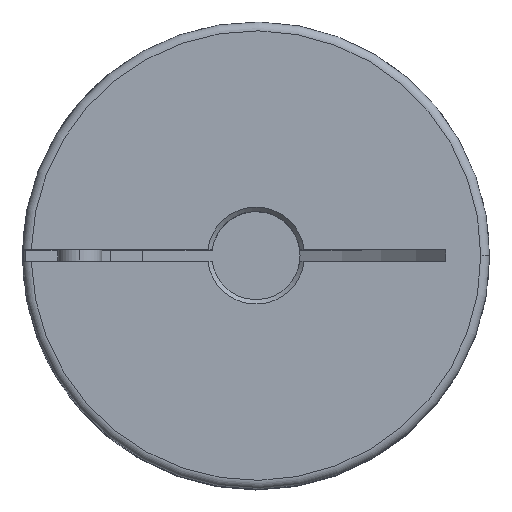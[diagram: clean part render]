
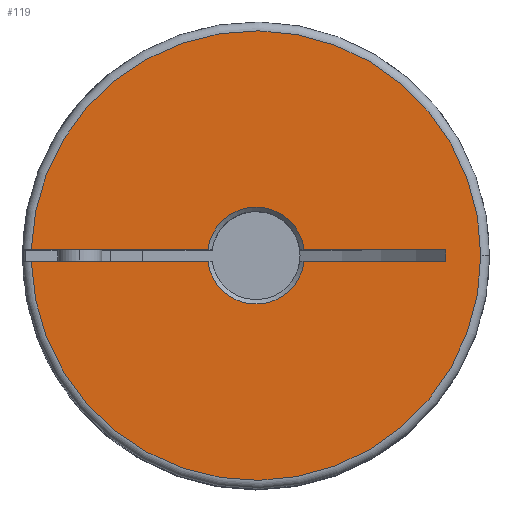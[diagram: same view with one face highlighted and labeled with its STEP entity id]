
A CAD part, top view. The second image highlights one B-rep face of the part: STEP entity #119.
In plain terms, the highlighted planar face has unit normal (0, 0, 1).
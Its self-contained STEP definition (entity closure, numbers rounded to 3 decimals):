
#119 = ADVANCED_FACE ( 'NONE', ( #1476 ), #4639, .F. ) ;
#395 = EDGE_CURVE ( 'NONE', #5055, #5344, #7812, .T. ) ;
#1061 = CARTESIAN_POINT ( 'NONE',  ( 21.5, 0.65, 26.55 ) ) ;
#1062 = DIRECTION ( 'NONE',  ( -1., 0., 0. ) ) ;
#1066 = CARTESIAN_POINT ( 'NONE',  ( 21.5, 0.65, 26.55 ) ) ;
#1067 = DIRECTION ( 'NONE',  ( -1., 0., 0. ) ) ;
#1071 = DIRECTION ( 'NONE',  ( -1., 0., 0. ) ) ;
#1072 = CARTESIAN_POINT ( 'NONE',  ( 21.5, 0.65, 26.55 ) ) ;
#1073 = CARTESIAN_POINT ( 'NONE',  ( 0., 0., 26.55 ) ) ;
#1074 = DIRECTION ( 'NONE',  ( 0., 0., -1. ) ) ;
#1075 = DIRECTION ( 'NONE',  ( 0., 1., 0. ) ) ;
#1076 = CARTESIAN_POINT ( 'NONE',  ( 21.5, -0.65, 26.55 ) ) ;
#1077 = DIRECTION ( 'NONE',  ( 0., -1., 0. ) ) ;
#1078 = CARTESIAN_POINT ( 'NONE',  ( 21.5, -0.65, 26.55 ) ) ;
#1079 = DIRECTION ( 'NONE',  ( -1., 0., 0. ) ) ;
#1476 = FACE_OUTER_BOUND ( 'NONE', #5761, .T. ) ;
#1821 = ORIENTED_EDGE ( 'NONE', *, *, #4212, .F. ) ;
#1822 = ORIENTED_EDGE ( 'NONE', *, *, #4213, .T. ) ;
#1823 = ORIENTED_EDGE ( 'NONE', *, *, #4214, .F. ) ;
#1824 = ORIENTED_EDGE ( 'NONE', *, *, #4215, .T. ) ;
#1825 = ORIENTED_EDGE ( 'NONE', *, *, #4216, .T. ) ;
#1826 = ORIENTED_EDGE ( 'NONE', *, *, #4217, .T. ) ;
#1827 = ORIENTED_EDGE ( 'NONE', *, *, #4218, .T. ) ;
#1828 = ORIENTED_EDGE ( 'NONE', *, *, #4219, .T. ) ;
#1829 = ORIENTED_EDGE ( 'NONE', *, *, #395, .T. ) ;
#3103 = CARTESIAN_POINT ( 'NONE',  ( 25.5, 0., 26.55 ) ) ;
#3165 = CARTESIAN_POINT ( 'NONE',  ( 21.5, 0.65, 26.55 ) ) ;
#3199 = CARTESIAN_POINT ( 'NONE',  ( -25.492, 0.65, 26.55 ) ) ;
#3290 = AXIS2_PLACEMENT_3D ( 'NONE', #4648, #4637, #4636 ) ;
#3484 = AXIS2_PLACEMENT_3D ( 'NONE', #3749, #3750, #3751 ) ;
#3540 = AXIS2_PLACEMENT_3D ( 'NONE', #1073, #1074, #1075 ) ;
#3541 = AXIS2_PLACEMENT_3D ( 'NONE', #6519, #6520, #6521 ) ;
#3542 = AXIS2_PLACEMENT_3D ( 'NONE', #6523, #6524, #6525 ) ;
#3749 = CARTESIAN_POINT ( 'NONE',  ( 0., 0., 26.55 ) ) ;
#3750 = DIRECTION ( 'NONE',  ( 0., 0., 1. ) ) ;
#3751 = DIRECTION ( 'NONE',  ( 1., 0., 0. ) ) ;
#4212 = EDGE_CURVE ( 'NONE', #7030, #5344, #8302, .T. ) ;
#4213 = EDGE_CURVE ( 'NONE', #7030, #7050, #8303, .T. ) ;
#4214 = EDGE_CURVE ( 'NONE', #5275, #7050, #8305, .T. ) ;
#4215 = EDGE_CURVE ( 'NONE', #5275, #7028, #8295, .T. ) ;
#4216 = EDGE_CURVE ( 'NONE', #7028, #6438, #8308, .T. ) ;
#4217 = EDGE_CURVE ( 'NONE', #6438, #6380, #8310, .T. ) ;
#4218 = EDGE_CURVE ( 'NONE', #6380, #6423, #8312, .T. ) ;
#4219 = EDGE_CURVE ( 'NONE', #6423, #5055, #8313, .T. ) ;
#4636 = DIRECTION ( 'NONE',  ( 1., 0., 0. ) ) ;
#4637 = DIRECTION ( 'NONE',  ( 0., 0., -1. ) ) ;
#4639 = PLANE ( 'NONE',  #3290 ) ;
#4648 = CARTESIAN_POINT ( 'NONE',  ( 0., 0., 26.55 ) ) ;
#5055 = VERTEX_POINT ( 'NONE', #3103 ) ;
#5275 = VERTEX_POINT ( 'NONE', #3165 ) ;
#5344 = VERTEX_POINT ( 'NONE', #3199 ) ;
#5761 = EDGE_LOOP ( 'NONE', ( #1821, #1822, #1823, #1824, #1825, #1826, #1827, #1828, #1829 ) ) ;
#5865 = CARTESIAN_POINT ( 'NONE',  ( -5.461, -0.65, 26.55 ) ) ;
#5908 = CARTESIAN_POINT ( 'NONE',  ( -25.492, -0.65, 26.55 ) ) ;
#5923 = CARTESIAN_POINT ( 'NONE',  ( 5.461, -0.65, 26.55 ) ) ;
#5929 = CARTESIAN_POINT ( 'NONE',  ( 21.5, -0.65, 26.55 ) ) ;
#5931 = CARTESIAN_POINT ( 'NONE',  ( -5.461, 0.65, 26.55 ) ) ;
#5941 = CARTESIAN_POINT ( 'NONE',  ( 5.461, 0.65, 26.55 ) ) ;
#6380 = VERTEX_POINT ( 'NONE', #5865 ) ;
#6423 = VERTEX_POINT ( 'NONE', #5908 ) ;
#6438 = VERTEX_POINT ( 'NONE', #5923 ) ;
#6519 = CARTESIAN_POINT ( 'NONE',  ( 0., 0., 26.55 ) ) ;
#6520 = DIRECTION ( 'NONE',  ( 0., 0., -1. ) ) ;
#6521 = DIRECTION ( 'NONE',  ( 0., 1., 0. ) ) ;
#6523 = CARTESIAN_POINT ( 'NONE',  ( 0., 0., 26.55 ) ) ;
#6524 = DIRECTION ( 'NONE',  ( 0., 0., 1. ) ) ;
#6525 = DIRECTION ( 'NONE',  ( 1., 0., 0. ) ) ;
#7028 = VERTEX_POINT ( 'NONE', #5929 ) ;
#7030 = VERTEX_POINT ( 'NONE', #5931 ) ;
#7050 = VERTEX_POINT ( 'NONE', #5941 ) ;
#7812 = CIRCLE ( 'NONE', #3484, 25.5 ) ;
#8295 = LINE ( 'NONE', #1072, #8309 ) ;
#8302 = LINE ( 'NONE', #1061, #8304 ) ;
#8303 = CIRCLE ( 'NONE', #3540, 5.5 ) ;
#8304 = VECTOR ( 'NONE', #1062, 1000. ) ;
#8305 = LINE ( 'NONE', #1066, #8307 ) ;
#8307 = VECTOR ( 'NONE', #1067, 1000. ) ;
#8308 = LINE ( 'NONE', #1078, #8311 ) ;
#8309 = VECTOR ( 'NONE', #1077, 1000. ) ;
#8310 = CIRCLE ( 'NONE', #3541, 5.5 ) ;
#8311 = VECTOR ( 'NONE', #1079, 1000. ) ;
#8312 = LINE ( 'NONE', #1076, #8314 ) ;
#8313 = CIRCLE ( 'NONE', #3542, 25.5 ) ;
#8314 = VECTOR ( 'NONE', #1071, 1000. ) ;
